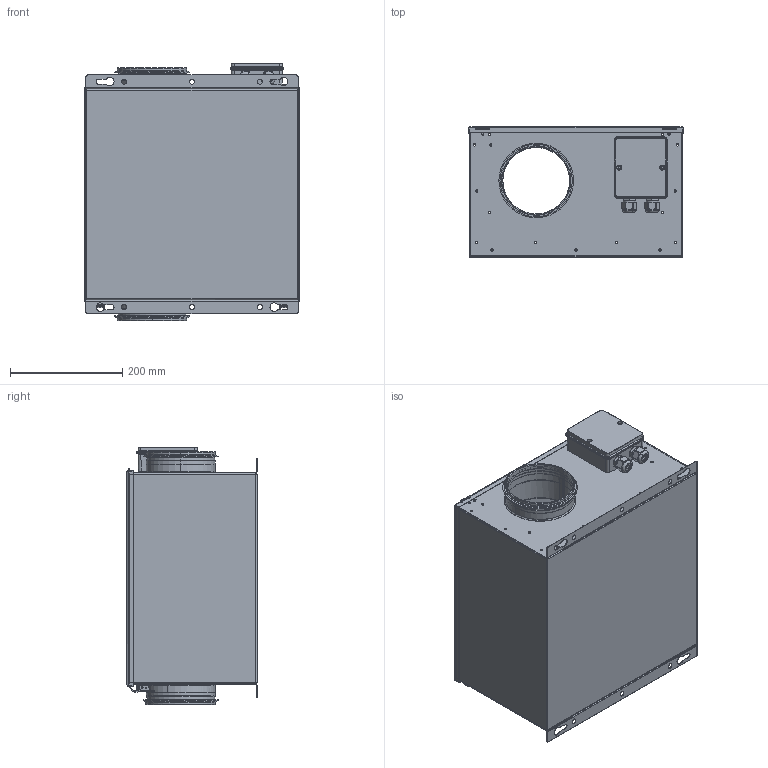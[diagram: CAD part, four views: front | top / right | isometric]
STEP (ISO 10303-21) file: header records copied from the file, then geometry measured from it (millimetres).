
FILE_DESCRIPTION (( 'STEP AP203' ), '1' );
FILE_NAME ('165180_00_ISOR125ECK01_step.step', '2022-10-17T08:04:18', ( '' ), ( '' ), 'SwSTEP 2.0', 'SolidWorks 2021', '' );
FILE_SCHEMA (( 'CONFIG_CONTROL_DESIGN' ));
Length unit declared in the file: millimetre
Products named in the file (1): 165180_00_ISOR125ECK01_step
Bounding box: 382.6 x 231.8 x 459.5 mm (x, y, z)
Surface area: 1558908.8 mm2 (no closed solid volume)
Topology: 0 solids, 65 shells, 782 faces, 2342 edges, 1549 vertices
Faces by surface type: cylinder 386, plane 235, bspline 67, torus 56, cone 38
Entity records: 29730 total; most frequent: CARTESIAN_POINT 8290, DIRECTION 4736, ORIENTED_EDGE 3939, EDGE_CURVE 2342, AXIS2_PLACEMENT_3D 1819, VERTEX_POINT 1549, CIRCLE 1103, LINE 1098
